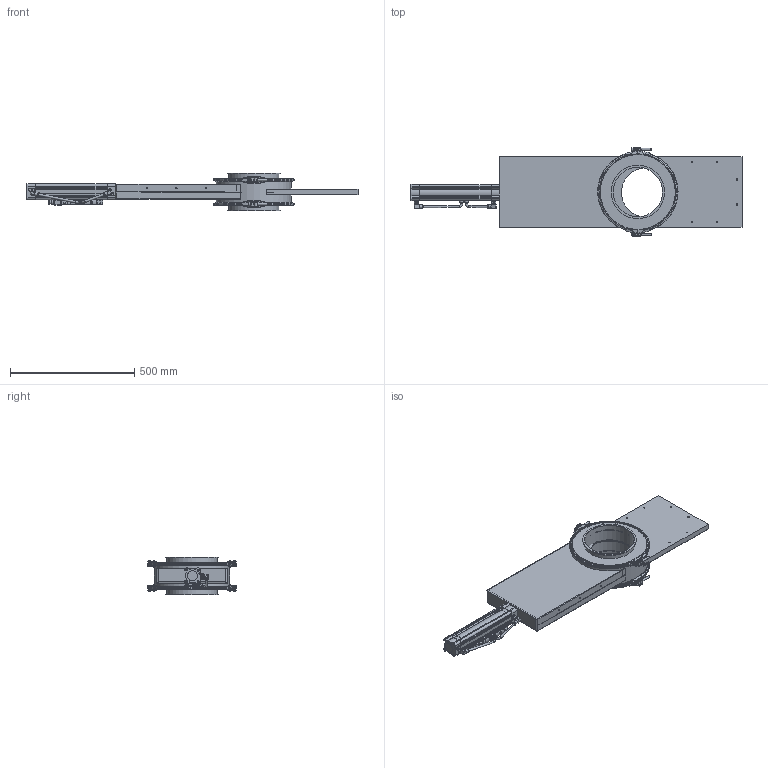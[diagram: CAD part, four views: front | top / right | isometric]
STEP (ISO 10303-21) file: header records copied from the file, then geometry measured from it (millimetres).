
FILE_DESCRIPTION((''),'2;1');
FILE_NAME('U:\Wolfgang\Marcel-3D\fertig\Kapitel 9\2021093.stp','2011-10-11T13:06:40',('iwienholt'),(''),'Autodesk Inventor 2010','Autodesk Inventor 2010','');
FILE_SCHEMA(('AUTOMOTIVE_DESIGN { 1 0 10303 214 1 1 1 1 }'));
Length unit declared in the file: millimetre
Products named in the file (25): 2021093; Einheit DN200; 3022055; 3022055-1; Verschluss b=324; Verschlussrolle; VerschlussrolleGewinde; ISO 4762 M8 x 70; 3022055-Dichtmasse; P.Schibereinheit DN200; 532758_DNCB_50_250_PPV_A_6_0; 532758_DNCB_50_250_PPV_A_6_01; 532758_DNCB_50_250_PPV_A_6_02; 537600_VUVB_S_B42_ZD_Q8_3AC1_6_0; 537600_VUVB_S_B42_ZD_Q8_3AC1_6_01; 537600_VUVB_S_B42_ZD_Q8_3AC1_6_02; 537600_VUVB_S_B42_ZD_Q8_3AC1_6_03; 4527_MSFG_24_42_50_60_6_0; 4527_MSFG_24_42_50_60_6_01; 4527_MSFG_24_42_50_60_6_02; 153414_QSRL_1_4_8_6_0; schlauch3; schlauch; 13570_CRSG_M12x125_6_0; P.Schieber DN200
Assembly tree (33 placements, depth 4):
  2021093
    Einheit DN200
    3022055  x2
      3022055-1
      Verschluss b=324
      Verschlussrolle
      VerschlussrolleGewinde
      ISO 4762 M8 x 70
      3022055-Dichtmasse
    P.Schibereinheit DN200
      532758_DNCB_50_250_PPV_A_6_0
        532758_DNCB_50_250_PPV_A_6_01
        532758_DNCB_50_250_PPV_A_6_02
      537600_VUVB_S_B42_ZD_Q8_3AC1_6_0
        537600_VUVB_S_B42_ZD_Q8_3AC1_6_01
        537600_VUVB_S_B42_ZD_Q8_3AC1_6_02
        537600_VUVB_S_B42_ZD_Q8_3AC1_6_03
      4527_MSFG_24_42_50_60_6_0
        4527_MSFG_24_42_50_60_6_01
        4527_MSFG_24_42_50_60_6_02
      153414_QSRL_1_4_8_6_0  x2
      schlauch3
      schlauch
      13570_CRSG_M12x125_6_0
      P.Schieber DN200
Bounding box: 1337.61 x 357.99 x 150 mm (x, y, z)
Volume: 5203216.8 mm3; surface area: 2176489.4 mm2
Topology: 40 solids, 40 shells, 1794 faces, 4594 edges, 2987 vertices
Faces by surface type: plane 757, cylinder 567, cone 228, bspline 200, torus 42
Full cylindrical faces by diameter (mm): 1 x3, 2.459 x1, 3 x2, 3.5 x1, 4 x1, 4.5 x1, 5 x21, 5.471 x2, 5.5 x1, 6 x13, 6.647 x8, 7.188 x1, 8 x37, 8.05 x1, 9 x1, 9.6 x2, 10.15 x2, 11.2 x2, 11.445 x2, 12 x11, 13 x4, 13.05 x2, 13.157 x2, 13.346 x1, 14 x6, 14.4 x4, 14.5 x2, 14.7 x6, 15.1 x2, 15.2 x1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
Entity records: 33018 total; most frequent: CARTESIAN_POINT 7585, DIRECTION 5296, ORIENTED_EDGE 4752, EDGE_CURVE 2376, AXIS2_PLACEMENT_3D 1982, VERTEX_POINT 1649, EDGE_LOOP 1429, VECTOR 1332
